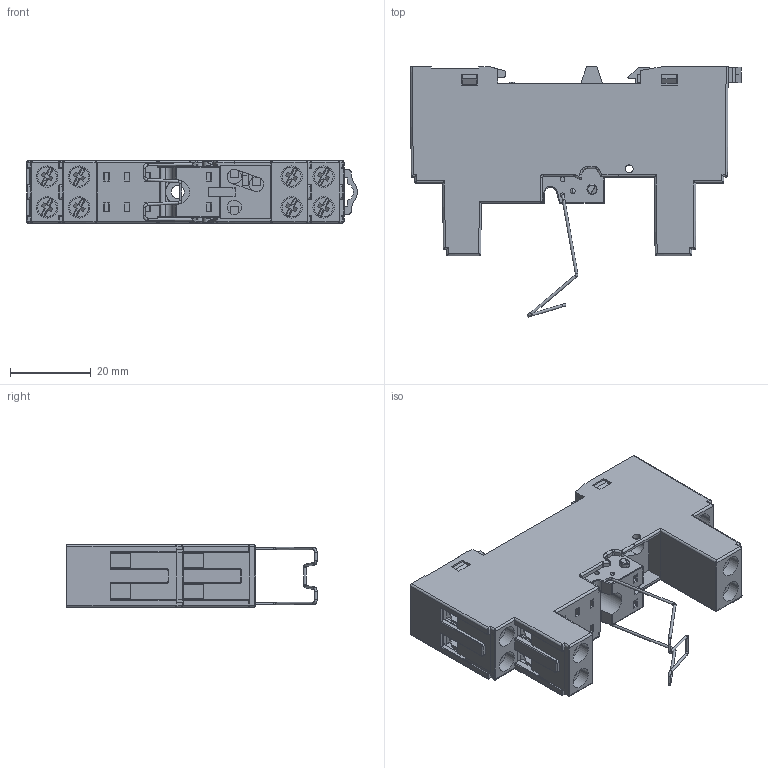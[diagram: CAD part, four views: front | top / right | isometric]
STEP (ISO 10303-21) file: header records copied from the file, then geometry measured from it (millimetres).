
FILE_DESCRIPTION(/* description */ ('Unknown'),/* implementation_level */ '2;1');
FILE_NAME(/* name */ '95853_with_09571',/* time_stamp */ '2021-04-07T15:06:34+02:00',/* author */ ('Unknown'),/* organization */ ('Unknown'),/* preprocessor_version */ 'ST-DEVELOPER v16.7',/* originating_system */ 'DEX',/* authorisation */ $);
FILE_SCHEMA (('AUTOMOTIVE_DESIGN {1 0 10303 214 3 1 1}'));
Length unit declared in the file: millimetre
Products named in the file (3): 95853_with_09571; 95853; 09571
Assembly tree (2 placements, depth 2):
  95853_with_09571
    95853
    09571
Bounding box: 82.09 x 62.05 x 15.5 mm (x, y, z)
Surface area: 24603.5 mm2 (no closed solid volume)
Topology: 0 solids, 43 shells, 935 faces, 3194 edges, 2187 vertices
Faces by surface type: plane 605, cylinder 246, bspline 57, sphere 19, torus 8
Full cylindrical faces by diameter (mm): 0.65 x13
Entity records: 42291 total; most frequent: CARTESIAN_POINT 11486, ORIENTED_EDGE 5262, DIRECTION 4783, EDGE_CURVE 3128, LINE 2335, VECTOR 2335, VERTEX_POINT 2183, AXIS2_PLACEMENT_3D 1224
